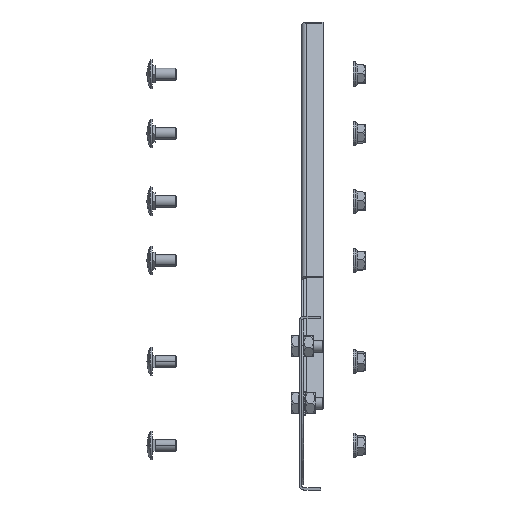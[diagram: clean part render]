
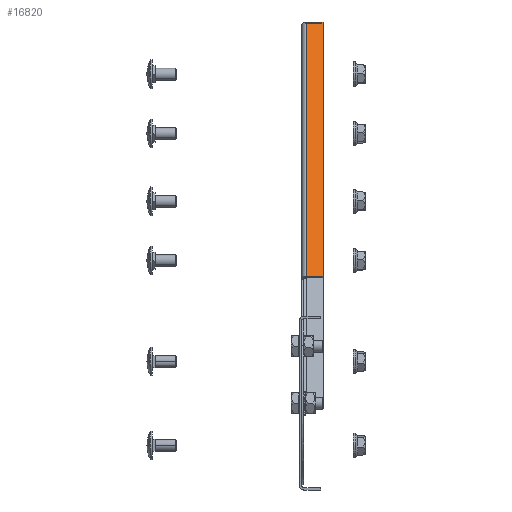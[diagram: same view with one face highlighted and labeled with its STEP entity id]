
A CAD part, left-side view. The second image highlights one B-rep face of the part: STEP entity #16820.
In plain terms, the highlighted planar face has unit normal (-0.707, 0, 0.707) as drawn and (0, -1, 0) by its records, which use the part's own axes.
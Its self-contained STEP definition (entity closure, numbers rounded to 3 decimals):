
#9150=CARTESIAN_POINT('',(0.,0.,16.
));
#9160=VERTEX_POINT('',#9150);
#9190=CARTESIAN_POINT('',(0.,0.,
1.837));
#9200=DIRECTION('',(0.,0.,1.));
#9210=VECTOR('',#9200,1.);
#9220=LINE('',#9190,#9210);
#9230=CARTESIAN_POINT('',(0.,0.,2.));
#9240=VERTEX_POINT('',#9230);
#9250=EDGE_CURVE('',#9240,#9160,#9220,.T.);
#16180=CARTESIAN_POINT('',(300.,0.,2.));
#16190=VERTEX_POINT('',#16180);
#16220=CARTESIAN_POINT('',(300.,0.,0.));
#16230=DIRECTION('',(0.,0.,-1.));
#16240=VECTOR('',#16230,1.);
#16250=LINE('',#16220,#16240);
#16260=CARTESIAN_POINT('',(300.,0.,16.));
#16270=VERTEX_POINT('',#16260);
#16280=EDGE_CURVE('',#16270,#16190,#16250,.T.);
#16610=CARTESIAN_POINT('',(0.,0.,1.837));
#16620=DIRECTION('',(0.,-1.,0.));
#16630=DIRECTION('',(1.,0.,0.));
#16640=AXIS2_PLACEMENT_3D('',#16610,#16620,#16630);
#16650=PLANE('',#16640);
#16660=ORIENTED_EDGE('',*,*,#9250,.F.);
#16670=CARTESIAN_POINT('',(0.,0.,
16.));
#16680=DIRECTION('',(1.,0.,0.));
#16690=VECTOR('',#16680,1.);
#16700=LINE('',#16670,#16690);
#16710=EDGE_CURVE('',#9160,#16270,#16700,.T.);
#16720=ORIENTED_EDGE('',*,*,#16710,.F.);
#16730=ORIENTED_EDGE('',*,*,#16280,.F.);
#16740=CARTESIAN_POINT('',(0.,0.,2.));
#16750=DIRECTION('',(-1.,0.,0.));
#16760=VECTOR('',#16750,1.);
#16770=LINE('',#16740,#16760);
#16780=EDGE_CURVE('',#16190,#9240,#16770,.T.);
#16790=ORIENTED_EDGE('',*,*,#16780,.F.);
#16800=EDGE_LOOP('',(#16790,#16730,#16720,#16660));
#16810=FACE_OUTER_BOUND('',#16800,.T.);
#16820=ADVANCED_FACE('',(#16810),#16650,.T.);
